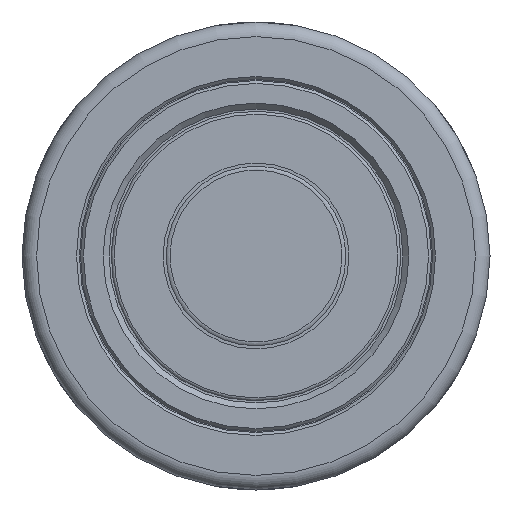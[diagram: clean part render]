
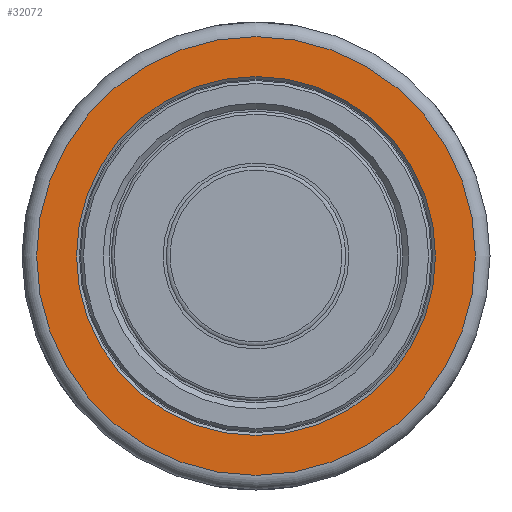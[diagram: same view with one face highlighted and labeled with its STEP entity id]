
A CAD part, front view. The second image highlights one B-rep face of the part: STEP entity #32072.
In plain terms, the highlighted planar face has unit normal (0, -1, 0).
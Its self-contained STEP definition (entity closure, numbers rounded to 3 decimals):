
#1229=FACE_BOUND('',#6678,.T.);
#1694=PLANE('',#33293);
#4938=FACE_OUTER_BOUND('',#6677,.T.);
#6677=EDGE_LOOP('',(#30079));
#6678=EDGE_LOOP('',(#30080));
#7296=CIRCLE('',#33289,15.);
#7300=CIRCLE('',#33294,12.275);
#16233=VERTEX_POINT('',#70505);
#16236=VERTEX_POINT('',#70513);
#20868=EDGE_CURVE('',#16233,#16233,#7296,.T.);
#20872=EDGE_CURVE('',#16236,#16236,#7300,.T.);
#30079=ORIENTED_EDGE('',*,*,#20868,.F.);
#30080=ORIENTED_EDGE('',*,*,#20872,.F.);
#32072=ADVANCED_FACE('',(#4938,#1229),#1694,.T.);
#33289=AXIS2_PLACEMENT_3D('',#70506,#37442,#37443);
#33293=AXIS2_PLACEMENT_3D('',#70512,#37450,#37451);
#33294=AXIS2_PLACEMENT_3D('',#70514,#37452,#37453);
#37442=DIRECTION('center_axis',(0.,1.,0.));
#37443=DIRECTION('ref_axis',(0.,0.,
1.));
#37450=DIRECTION('center_axis',(0.,-1.,0.));
#37451=DIRECTION('ref_axis',(1.,0.,0.));
#37452=DIRECTION('center_axis',(0.,-1.,0.));
#37453=DIRECTION('ref_axis',(0.,0.,
1.));
#70505=CARTESIAN_POINT('',(-15.,-24.692,0.));
#70506=CARTESIAN_POINT('Origin',(0.,-24.692,
0.));
#70512=CARTESIAN_POINT('Origin',(0.,-24.692,
-12.075));
#70513=CARTESIAN_POINT('',(0.,-24.692,-12.275));
#70514=CARTESIAN_POINT('Origin',(0.,-24.692,
0.));
